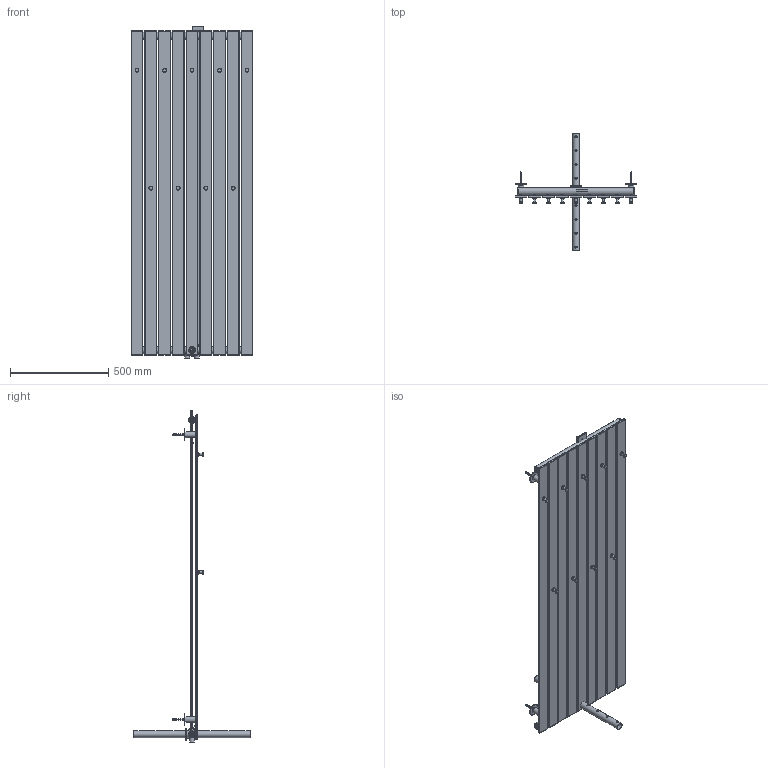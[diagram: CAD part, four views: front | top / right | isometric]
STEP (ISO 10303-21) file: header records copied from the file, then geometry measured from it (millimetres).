
FILE_DESCRIPTION( ( 'Unknown' ), '1' );
FILE_NAME( 'D:/Alplast sp. j/Witryna zespoBu - Projekty/Archiwum/Grzejniki Archiwum/Projekty/DESIGN PROGRAM/CALLE/CALE 2.stp', 'Unknown', ( 'Unknown' ), ( 'Unknown' ), 'PSStep 10.1', 'Unknown', ' ' );
FILE_SCHEMA( ( 'AUTOMOTIVE_DESIGN { 1 0 10303 214 1 1 1 1 }' ) );
Length unit declared in the file: millimetre
Products named in the file (15): Mocowanie Szerokie L60; Assem1; MOCOWANIE SZEROKIE L60-01; MOCOWANIE FASOLKA; MOCOWANIE SZEROKIE L60-03; MOCOWANIE TALERZYK; ko³ek rozporowy; wkrêt konsoli; wkrêt ustalaj¹cy; rura 60x10  1650; mufka; Zaslepka fi 35 z gwintem ; wieszak staly; CALLE kolektor 620 D-50; CALLE kolektor 620
Bounding box: 620 x 596 x 1689.5 mm (x, y, z)
Volume: 3708242.7 mm3; surface area: 5125444.5 mm2
Topology: 74 solids, 74 shells, 1212 faces, 2946 edges, 1846 vertices
Faces by surface type: plane 439, cylinder 401, cone 168, torus 84, sphere 80, extrusion 36, bspline 4
Full cylindrical faces by diameter (mm): 4 x6, 4.5 x6, 4.807 x6, 4.917 x6, 5 x6, 6.023 x36, 8 x32, 9 x3, 12 x10, 15 x4, 17 x6, 18.631 x5, 19 x3, 20 x20, 20.5 x6, 22 x6, 22.7 x6, 23 x6, 25 x8, 29 x6, 29.2 x6, 30 x6, 32 x4, 35 x9, 60 x6
Entity records: 17372 total; most frequent: CARTESIAN_POINT 9337, DIRECTION 1120, ORIENTED_EDGE 974, AXIS2_PLACEMENT_3D 509, EDGE_CURVE 487, EDGE_LOOP 478, VERTEX_POINT 392, FACE_OUTER_BOUND 345
